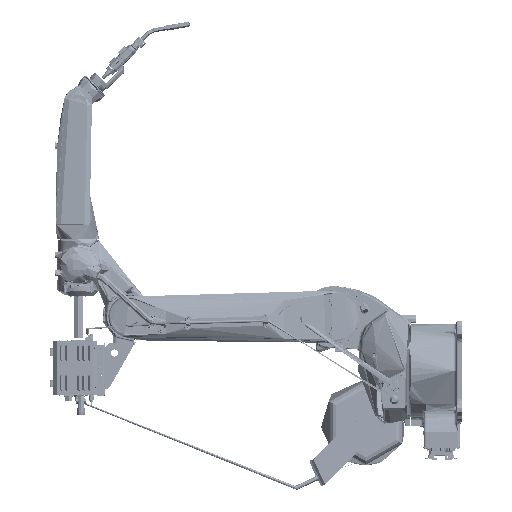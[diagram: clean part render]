
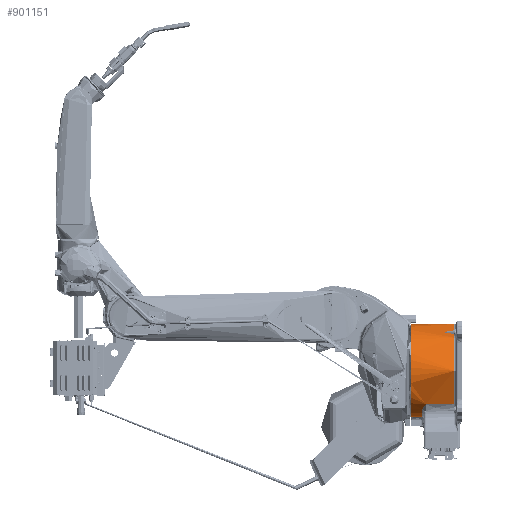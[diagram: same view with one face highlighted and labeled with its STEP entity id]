
A CAD part, left-side view. The second image highlights one B-rep face of the part: STEP entity #901151.
In plain terms, the highlighted conical face has half-angle 0.2 degrees and reference radius 181 mm.
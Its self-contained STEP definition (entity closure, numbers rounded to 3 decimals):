
#23462 = CARTESIAN_POINT ( 'NONE',  ( 0., 200., 0. ) ) ;
#25608 = ORIENTED_EDGE ( 'NONE', *, *, #87165, .T. ) ;
#63068 = CARTESIAN_POINT ( 'NONE',  ( 0., 200., 181.031 ) ) ;
#65100 = CARTESIAN_POINT ( 'NONE',  ( -118.688, 148.939, -136.952 ) ) ;
#68232 = CARTESIAN_POINT ( 'NONE',  ( -24.805, 183.001, -179.384 ) ) ;
#87165 = EDGE_CURVE ( 'NONE', #765314, #751743, #155888, .T. ) ;
#105495 = AXIS2_PLACEMENT_3D ( 'NONE', #23462, #208998, #868532 ) ;
#117894 = DIRECTION ( 'NONE',  ( 0., -1., 0. ) ) ;
#141157 = EDGE_CURVE ( 'NONE', #865640, #624344, #240256, .T. ) ;
#151826 = CARTESIAN_POINT ( 'NONE',  ( -105.406, 154.976, -147.38 ) ) ;
#155888 = CIRCLE ( 'NONE', #882991, 181.625 ) ;
#163016 = CARTESIAN_POINT ( 'NONE',  ( -24.882, 173.667, -179.406 ) ) ;
#168194 = EDGE_CURVE ( 'NONE', #776882, #751743, #946504, .T. ) ;
#202360 = CIRCLE ( 'NONE', #105495, 181.031 ) ;
#208998 = DIRECTION ( 'NONE',  ( 0., 1., 0. ) ) ;
#216825 = CARTESIAN_POINT ( 'NONE',  ( 0., 209., 181. ) ) ;
#220168 = ORIENTED_EDGE ( 'NONE', *, *, #970133, .T. ) ;
#223125 = CARTESIAN_POINT ( 'NONE',  ( -24.664, 200., -179.343 ) ) ;
#238582 = CARTESIAN_POINT ( 'NONE',  ( -125.474, 142.67, -130.79 ) ) ;
#240256 = CIRCLE ( 'NONE', #779283, 181.189 ) ;
#246660 = CARTESIAN_POINT ( 'NONE',  ( -109.819, 154.023, -144.125 ) ) ;
#250721 = CARTESIAN_POINT ( 'NONE',  ( -106.533, 154.841, -146.567 ) ) ;
#254468 = CARTESIAN_POINT ( 'NONE',  ( -127.796, 92.35, -128.751 ) ) ;
#257807 = CARTESIAN_POINT ( 'NONE',  ( -24.96, 164.334, -179.428 ) ) ;
#262709 = VERTEX_POINT ( 'NONE', #989271 ) ;
#345693 = CARTESIAN_POINT ( 'NONE',  ( 0., 154.976, 0. ) ) ;
#353795 = DIRECTION ( 'NONE',  ( 0., 1., 0. ) ) ;
#356860 = CARTESIAN_POINT ( 'NONE',  ( -25.037, 155.001, -179.45 ) ) ;
#421556 = B_SPLINE_CURVE_WITH_KNOTS ( 'NONE', 3,
 ( #1028566, #471901, #1115218, #640993 ),
 .UNSPECIFIED., .F., .F.,
 ( 4, 4 ),
 ( 0., 0. ),
 .UNSPECIFIED. ) ;
#432152 = CARTESIAN_POINT ( 'NONE',  ( -127.437, 116.687, -128.987 ) ) ;
#450621 = DIRECTION ( 'NONE',  ( 0., 0., 1. ) ) ;
#458842 = ORIENTED_EDGE ( 'NONE', *, *, #1182106, .T. ) ;
#471901 = CARTESIAN_POINT ( 'NONE',  ( -25.161, 154.984, -179.433 ) ) ;
#491347 = CONICAL_SURFACE ( 'NONE', #1024979, 181., 0.003 ) ;
#491777 = B_SPLINE_CURVE_WITH_KNOTS ( 'NONE', 3,
 ( #531051, #151826, #250721, #629722, #246660, #1087760, #1005164, #815386, #1091839, #1182736, #526999, #65100, #1009136, #906174, #238582, #1190816 ),
 .UNSPECIFIED., .F., .F.,
 ( 4, 2, 2, 2, 2, 2, 2, 4 ),
 ( 0., 0.004, 0.008, 0.01, 0.013, 0.017, 0.025, 0.033 ),
 .UNSPECIFIED. ) ;
#498195 = CARTESIAN_POINT ( 'NONE',  ( -128.716, 29.972, -128.139 ) ) ;
#515485 = ORIENTED_EDGE ( 'NONE', *, *, #844177, .T. ) ;
#526999 = CARTESIAN_POINT ( 'NONE',  ( -115.898, 150.919, -139.296 ) ) ;
#531051 = CARTESIAN_POINT ( 'NONE',  ( -104.25, 154.976, -148.193 ) ) ;
#538024 = EDGE_CURVE ( 'NONE', #1134243, #865640, #421556, .T. ) ;
#561425 = CARTESIAN_POINT ( 'NONE',  ( 0., 29.972, 0. ) ) ;
#578038 = VERTEX_POINT ( 'NONE', #223125 ) ;
#621519 = CARTESIAN_POINT ( 'NONE',  ( -128.716, 29.972, -128.139 ) ) ;
#624344 = VERTEX_POINT ( 'NONE', #684327 ) ;
#629722 = CARTESIAN_POINT ( 'NONE',  ( -108.74, 154.365, -144.94 ) ) ;
#640993 = CARTESIAN_POINT ( 'NONE',  ( -25.411, 154.976, -179.398 ) ) ;
#644305 = CARTESIAN_POINT ( 'NONE',  ( -25.411, 154.976, -179.398 ) ) ;
#645025 = CARTESIAN_POINT ( 'NONE',  ( -24.664, 200., -179.343 ) ) ;
#682256 = ORIENTED_EDGE ( 'NONE', *, *, #1033635, .F. ) ;
#682630 = CARTESIAN_POINT ( 'NONE',  ( 0., 209., 0. ) ) ;
#684327 = CARTESIAN_POINT ( 'NONE',  ( -104.25, 154.976, -148.193 ) ) ;
#720389 = CARTESIAN_POINT ( 'NONE',  ( -128.342, 55.332, -128.389 ) ) ;
#737315 = CARTESIAN_POINT ( 'NONE',  ( -25.037, 155.001, -179.45 ) ) ;
#751743 = VERTEX_POINT ( 'NONE', #1120261 ) ;
#765314 = VERTEX_POINT ( 'NONE', #498195 ) ;
#776882 = VERTEX_POINT ( 'NONE', #63068 ) ;
#779283 = AXIS2_PLACEMENT_3D ( 'NONE', #345693, #353795, #1108154 ) ;
#787236 = B_SPLINE_CURVE_WITH_KNOTS ( 'NONE', 3,
 ( #645025, #1103060, #921369, #68232, #163016, #257807, #356860 ),
 .UNSPECIFIED., .F., .F.,
 ( 4, 3, 4 ),
 ( 0.003, 0.02, 0.048 ),
 .UNSPECIFIED. ) ;
#815386 = CARTESIAN_POINT ( 'NONE',  ( -112.956, 152.647, -141.681 ) ) ;
#822940 = B_SPLINE_CURVE_WITH_KNOTS ( 'NONE', 3,
 ( #996815, #432152, #254468, #1194660, #720389, #1186516, #621519 ),
 .UNSPECIFIED., .F., .F.,
 ( 4, 3, 4 ),
 ( 0.007, 0.08, 0.118 ),
 .UNSPECIFIED. ) ;
#844177 = EDGE_CURVE ( 'NONE', #578038, #1134243, #787236, .T. ) ;
#865640 = VERTEX_POINT ( 'NONE', #644305 ) ;
#868532 = DIRECTION ( 'NONE',  ( 0., 0., 1. ) ) ;
#876981 = ORIENTED_EDGE ( 'NONE', *, *, #538024, .T. ) ;
#882991 = AXIS2_PLACEMENT_3D ( 'NONE', #561425, #1205052, #450621 ) ;
#901151 = ADVANCED_FACE ( 'NONE', ( #1170464 ), #491347, .T. ) ;
#906174 = CARTESIAN_POINT ( 'NONE',  ( -123.839, 144.317, -132.333 ) ) ;
#921369 = CARTESIAN_POINT ( 'NONE',  ( -24.758, 188.667, -179.37 ) ) ;
#946504 = LINE ( 'NONE', #216825, #1049473 ) ;
#970133 = EDGE_CURVE ( 'NONE', #624344, #262709, #491777, .T. ) ;
#989271 = CARTESIAN_POINT ( 'NONE',  ( -127.079, 141.024, -129.221 ) ) ;
#996815 = CARTESIAN_POINT ( 'NONE',  ( -127.079, 141.024, -129.221 ) ) ;
#1005164 = CARTESIAN_POINT ( 'NONE',  ( -111.931, 153.148, -142.49 ) ) ;
#1009136 = CARTESIAN_POINT ( 'NONE',  ( -120.446, 147.451, -135.414 ) ) ;
#1024979 = AXIS2_PLACEMENT_3D ( 'NONE', #682630, #117894, #1160871 ) ;
#1028566 = CARTESIAN_POINT ( 'NONE',  ( -25.037, 155.001, -179.45 ) ) ;
#1033635 = EDGE_CURVE ( 'NONE', #578038, #776882, #202360, .T. ) ;
#1049473 = VECTOR ( 'NONE', #1169043, 1000. ) ;
#1087760 = CARTESIAN_POINT ( 'NONE',  ( -111.408, 153.382, -142.899 ) ) ;
#1091839 = CARTESIAN_POINT ( 'NONE',  ( -113.459, 152.38, -141.28 ) ) ;
#1103060 = CARTESIAN_POINT ( 'NONE',  ( -24.711, 194.334, -179.357 ) ) ;
#1108154 = DIRECTION ( 'NONE',  ( 0., 0., 1. ) ) ;
#1115218 = CARTESIAN_POINT ( 'NONE',  ( -25.286, 154.976, -179.416 ) ) ;
#1120261 = CARTESIAN_POINT ( 'NONE',  ( 0., 29.972, 181.625 ) ) ;
#1134243 = VERTEX_POINT ( 'NONE', #737315 ) ;
#1134579 = EDGE_LOOP ( 'NONE', ( #1207640, #682256, #515485, #876981, #1219457, #220168, #458842, #25608 ) ) ;
#1160871 = DIRECTION ( 'NONE',  ( 0., 0., 1. ) ) ;
#1169043 = DIRECTION ( 'NONE',  ( 0., -1., 0.003 ) ) ;
#1170464 = FACE_OUTER_BOUND ( 'NONE', #1134579, .T. ) ;
#1182106 = EDGE_CURVE ( 'NONE', #262709, #765314, #822940, .T. ) ;
#1182736 = CARTESIAN_POINT ( 'NONE',  ( -114.943, 151.538, -140.084 ) ) ;
#1186516 = CARTESIAN_POINT ( 'NONE',  ( -128.529, 42.652, -128.265 ) ) ;
#1190816 = CARTESIAN_POINT ( 'NONE',  ( -127.079, 141.024, -129.221 ) ) ;
#1194660 = CARTESIAN_POINT ( 'NONE',  ( -128.155, 68.012, -128.513 ) ) ;
#1205052 = DIRECTION ( 'NONE',  ( 0., 1., 0. ) ) ;
#1207640 = ORIENTED_EDGE ( 'NONE', *, *, #168194, .F. ) ;
#1219457 = ORIENTED_EDGE ( 'NONE', *, *, #141157, .T. ) ;
